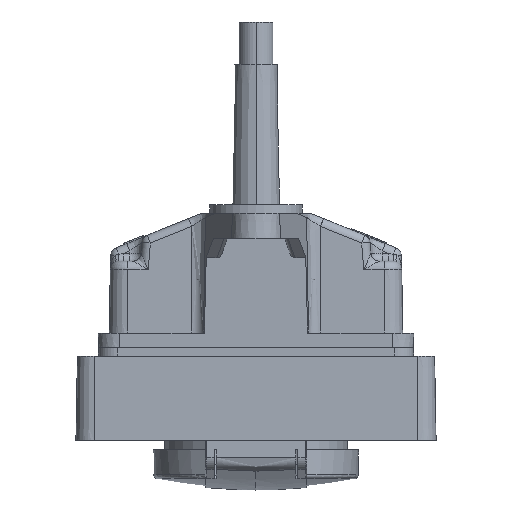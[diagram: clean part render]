
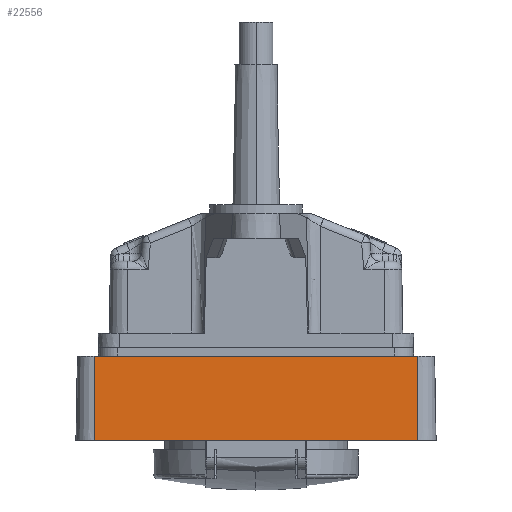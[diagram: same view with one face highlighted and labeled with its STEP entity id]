
A CAD part, front view. The second image highlights one B-rep face of the part: STEP entity #22556.
In plain terms, the highlighted planar face has unit normal (0, -1, 0.018).
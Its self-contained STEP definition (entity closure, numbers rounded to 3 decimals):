
#554 = DIRECTION ( 'NONE',  ( 0., -0.017, -1. ) ) ;
#1175 = EDGE_LOOP ( 'NONE', ( #7520, #4452, #18186, #17885 ) ) ;
#1187 = VERTEX_POINT ( 'NONE', #13964 ) ;
#1356 = VERTEX_POINT ( 'NONE', #2250 ) ;
#1452 = CARTESIAN_POINT ( 'NONE',  ( -38.5, -42.849, -22. ) ) ;
#2250 = CARTESIAN_POINT ( 'NONE',  ( 38.5, -42.849, -22. ) ) ;
#2324 = LINE ( 'NONE', #1452, #23402 ) ;
#2766 = EDGE_CURVE ( 'NONE', #16131, #18016, #22836, .T. ) ;
#3570 = DIRECTION ( 'NONE',  ( -1., 0., 0. ) ) ;
#3918 = LINE ( 'NONE', #20827, #14465 ) ;
#4443 = CARTESIAN_POINT ( 'NONE',  ( -38.5, -42.5, -2. ) ) ;
#4452 = ORIENTED_EDGE ( 'NONE', *, *, #5406, .F. ) ;
#4755 = FACE_OUTER_BOUND ( 'NONE', #1175, .T. ) ;
#5406 = EDGE_CURVE ( 'NONE', #1187, #18016, #6524, .T. ) ;
#6039 = VECTOR ( 'NONE', #19170, 1000. ) ;
#6524 = LINE ( 'NONE', #19010, #17069 ) ;
#7520 = ORIENTED_EDGE ( 'NONE', *, *, #2766, .T. ) ;
#11446 = CARTESIAN_POINT ( 'NONE',  ( 38.5, -42.5, -2. ) ) ;
#13169 = DIRECTION ( 'NONE',  ( 0., -1., 0.017 ) ) ;
#13964 = CARTESIAN_POINT ( 'NONE',  ( -38.5, -42.849, -22. ) ) ;
#14465 = VECTOR ( 'NONE', #16724, 1000. ) ;
#14489 = EDGE_CURVE ( 'NONE', #1356, #16131, #3918, .T. ) ;
#16131 = VERTEX_POINT ( 'NONE', #11446 ) ;
#16724 = DIRECTION ( 'NONE',  ( 0., 0.017, 1. ) ) ;
#17069 = VECTOR ( 'NONE', #25350, 1000. ) ;
#17885 = ORIENTED_EDGE ( 'NONE', *, *, #14489, .T. ) ;
#18016 = VERTEX_POINT ( 'NONE', #18860 ) ;
#18186 = ORIENTED_EDGE ( 'NONE', *, *, #26149, .F. ) ;
#18860 = CARTESIAN_POINT ( 'NONE',  ( -38.5, -42.5, -2. ) ) ;
#19010 = CARTESIAN_POINT ( 'NONE',  ( -38.5, -42.5, -2. ) ) ;
#19170 = DIRECTION ( 'NONE',  ( -1., 0., 0. ) ) ;
#20037 = AXIS2_PLACEMENT_3D ( 'NONE', #25775, #13169, #554 ) ;
#20827 = CARTESIAN_POINT ( 'NONE',  ( 38.5, -42.5, -2. ) ) ;
#21451 = PLANE ( 'NONE',  #20037 ) ;
#22556 = ADVANCED_FACE ( 'NONE', ( #4755 ), #21451, .T. ) ;
#22836 = LINE ( 'NONE', #4443, #6039 ) ;
#23402 = VECTOR ( 'NONE', #3570, 1000. ) ;
#25350 = DIRECTION ( 'NONE',  ( 0., 0.017, 1. ) ) ;
#25775 = CARTESIAN_POINT ( 'NONE',  ( -38.5, -42.5, -2. ) ) ;
#26149 = EDGE_CURVE ( 'NONE', #1356, #1187, #2324, .T. ) ;
